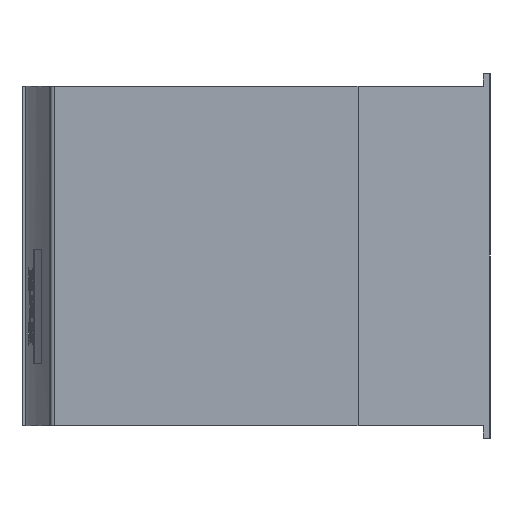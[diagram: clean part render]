
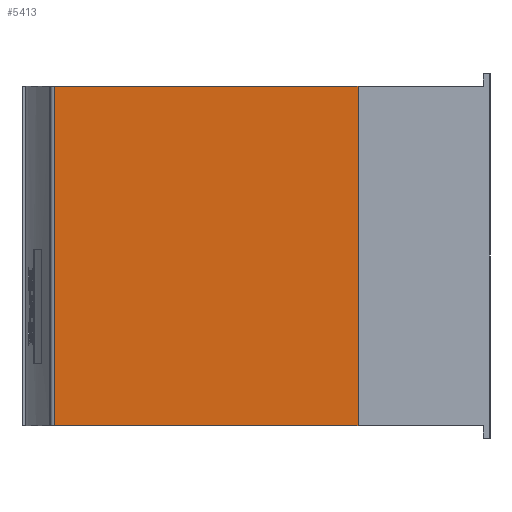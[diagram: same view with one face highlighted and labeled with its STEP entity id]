
A CAD part, left-side view. The second image highlights one B-rep face of the part: STEP entity #5413.
In plain terms, the highlighted planar face has unit normal (-0.998, 0.058, 0).
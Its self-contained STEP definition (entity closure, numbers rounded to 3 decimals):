
#76 = VECTOR ( 'NONE', #4238, 1000. ) ;
#215 = EDGE_CURVE ( 'NONE', #7109, #1756, #2921, .T. ) ;
#379 = CARTESIAN_POINT ( 'NONE',  ( -110.687, -28.906, 197. ) ) ;
#588 = DIRECTION ( 'NONE',  ( 0., 0., -1. ) ) ;
#626 = VECTOR ( 'NONE', #2476, 1000. ) ;
#701 = CARTESIAN_POINT ( 'NONE',  ( -110.687, -28.906, 197. ) ) ;
#718 = LINE ( 'NONE', #3799, #3800 ) ;
#920 = CARTESIAN_POINT ( 'NONE',  ( -110.687, -28.906, 195.128 ) ) ;
#1078 = CARTESIAN_POINT ( 'NONE',  ( -100.443, 147.221, 197. ) ) ;
#1163 = AXIS2_PLACEMENT_3D ( 'NONE', #4914, #1331, #6087 ) ;
#1279 = ORIENTED_EDGE ( 'NONE', *, *, #2802, .T. ) ;
#1331 = DIRECTION ( 'NONE',  ( 0.998, -0.058, 0. ) ) ;
#1344 = LINE ( 'NONE', #2610, #1529 ) ;
#1413 = VECTOR ( 'NONE', #588, 1000. ) ;
#1529 = VECTOR ( 'NONE', #5193, 1000. ) ;
#1614 = ORIENTED_EDGE ( 'NONE', *, *, #2616, .F. ) ;
#1756 = VERTEX_POINT ( 'NONE', #4704 ) ;
#2023 = VECTOR ( 'NONE', #4012, 1000. ) ;
#2369 = CARTESIAN_POINT ( 'NONE',  ( -100.443, 147.221, 0. ) ) ;
#2476 = DIRECTION ( 'NONE',  ( 0., 0., -1. ) ) ;
#2492 = DIRECTION ( 'NONE',  ( 0., 0., -1. ) ) ;
#2610 = CARTESIAN_POINT ( 'NONE',  ( -100.443, 147.221, 197. ) ) ;
#2616 = EDGE_CURVE ( 'NONE', #1756, #7093, #718, .T. ) ;
#2802 = EDGE_CURVE ( 'NONE', #4366, #7624, #5813, .T. ) ;
#2804 = VERTEX_POINT ( 'NONE', #5335 ) ;
#2878 = DIRECTION ( 'NONE',  ( 0., 0., -1. ) ) ;
#2921 = LINE ( 'NONE', #4174, #1413 ) ;
#3029 = ORIENTED_EDGE ( 'NONE', *, *, #215, .F. ) ;
#3045 = LINE ( 'NONE', #6907, #2023 ) ;
#3080 = ORIENTED_EDGE ( 'NONE', *, *, #4114, .T. ) ;
#3676 = CARTESIAN_POINT ( 'NONE',  ( -100.443, 147.221, 0. ) ) ;
#3799 = CARTESIAN_POINT ( 'NONE',  ( -110.687, -28.906, 197. ) ) ;
#3800 = VECTOR ( 'NONE', #6805, 1000. ) ;
#3806 = EDGE_CURVE ( 'NONE', #7537, #4686, #4551, .T. ) ;
#4012 = DIRECTION ( 'NONE',  ( 0., 0., -1. ) ) ;
#4114 = EDGE_CURVE ( 'NONE', #7624, #2804, #4817, .T. ) ;
#4134 = ORIENTED_EDGE ( 'NONE', *, *, #6962, .F. ) ;
#4174 = CARTESIAN_POINT ( 'NONE',  ( -110.687, -28.906, 197. ) ) ;
#4238 = DIRECTION ( 'NONE',  ( -0.058, -0.998, 0. ) ) ;
#4366 = VERTEX_POINT ( 'NONE', #7358 ) ;
#4477 = EDGE_LOOP ( 'NONE', ( #3080, #4134, #1614, #3029, #6266, #5421, #4707, #1279 ) ) ;
#4551 = LINE ( 'NONE', #4906, #626 ) ;
#4686 = VERTEX_POINT ( 'NONE', #920 ) ;
#4704 = CARTESIAN_POINT ( 'NONE',  ( -110.687, -28.906, 5.628 ) ) ;
#4707 = ORIENTED_EDGE ( 'NONE', *, *, #7089, .F. ) ;
#4817 = LINE ( 'NONE', #2369, #76 ) ;
#4852 = FACE_OUTER_BOUND ( 'NONE', #4477, .T. ) ;
#4906 = CARTESIAN_POINT ( 'NONE',  ( -110.687, -28.906, 197. ) ) ;
#4914 = CARTESIAN_POINT ( 'NONE',  ( -100.443, 147.221, 197. ) ) ;
#5193 = DIRECTION ( 'NONE',  ( -0.058, -0.998, 0. ) ) ;
#5302 = CARTESIAN_POINT ( 'NONE',  ( -110.687, -28.906, 191.372 ) ) ;
#5335 = CARTESIAN_POINT ( 'NONE',  ( -110.687, -28.906, 0. ) ) ;
#5413 = ADVANCED_FACE ( 'NONE', ( #4852 ), #7129, .F. ) ;
#5421 = ORIENTED_EDGE ( 'NONE', *, *, #3806, .F. ) ;
#5813 = LINE ( 'NONE', #1078, #6448 ) ;
#6087 = DIRECTION ( 'NONE',  ( 0.058, 0.998, 0. ) ) ;
#6266 = ORIENTED_EDGE ( 'NONE', *, *, #6312, .F. ) ;
#6312 = EDGE_CURVE ( 'NONE', #4686, #7109, #3045, .T. ) ;
#6448 = VECTOR ( 'NONE', #2878, 1000. ) ;
#6533 = LINE ( 'NONE', #701, #6712 ) ;
#6712 = VECTOR ( 'NONE', #2492, 1000. ) ;
#6805 = DIRECTION ( 'NONE',  ( 0., 0., -1. ) ) ;
#6907 = CARTESIAN_POINT ( 'NONE',  ( -110.687, -28.906, 197. ) ) ;
#6962 = EDGE_CURVE ( 'NONE', #7093, #2804, #6533, .T. ) ;
#7089 = EDGE_CURVE ( 'NONE', #4366, #7537, #1344, .T. ) ;
#7093 = VERTEX_POINT ( 'NONE', #7460 ) ;
#7109 = VERTEX_POINT ( 'NONE', #5302 ) ;
#7129 = PLANE ( 'NONE',  #1163 ) ;
#7358 = CARTESIAN_POINT ( 'NONE',  ( -100.443, 147.221, 197. ) ) ;
#7460 = CARTESIAN_POINT ( 'NONE',  ( -110.687, -28.906, 1.872 ) ) ;
#7537 = VERTEX_POINT ( 'NONE', #379 ) ;
#7624 = VERTEX_POINT ( 'NONE', #3676 ) ;
